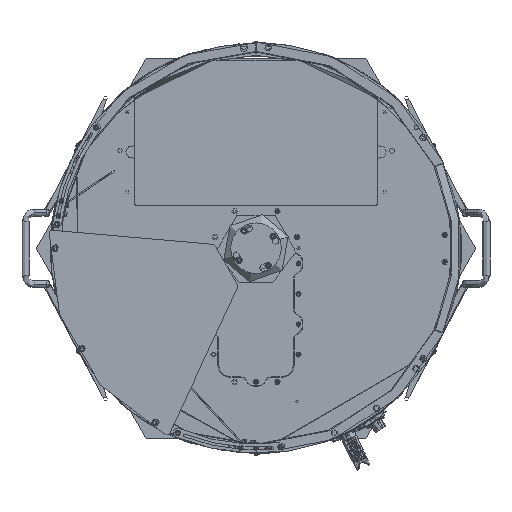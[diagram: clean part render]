
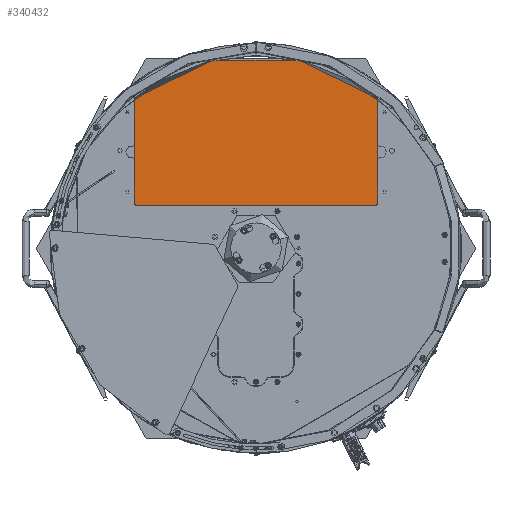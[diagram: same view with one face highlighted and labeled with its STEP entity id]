
A CAD part, top view. The second image highlights one B-rep face of the part: STEP entity #340432.
In plain terms, the highlighted planar face has unit normal (0, 0, 1).
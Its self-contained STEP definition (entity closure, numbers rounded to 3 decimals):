
#5748 = CARTESIAN_POINT ( 'NONE',  ( -202., -72.5, 8. ) ) ;
#8291 = AXIS2_PLACEMENT_3D ( 'NONE', #85639, #416237, #358437 ) ;
#11545 = ORIENTED_EDGE ( 'NONE', *, *, #57411, .T. ) ;
#31660 = AXIS2_PLACEMENT_3D ( 'NONE', #274567, #106055, #276738 ) ;
#33598 = ORIENTED_EDGE ( 'NONE', *, *, #176933, .T. ) ;
#43052 = CARTESIAN_POINT ( 'NONE',  ( 0., -72.5, 8. ) ) ;
#45808 = PLANE ( 'NONE',  #8291 ) ;
#47007 = ORIENTED_EDGE ( 'NONE', *, *, #284260, .T. ) ;
#54558 = FACE_OUTER_BOUND ( 'NONE', #314992, .T. ) ;
#57411 = EDGE_CURVE ( 'NONE', #329378, #265883, #159231, .T. ) ;
#58871 = DIRECTION ( 'NONE',  ( -1., 0., 0. ) ) ;
#62432 = LINE ( 'NONE', #337326, #391621 ) ;
#64414 = CARTESIAN_POINT ( 'NONE',  ( 202., -72.5, 8. ) ) ;
#66748 = VECTOR ( 'NONE', #176138, 1000. ) ;
#67462 = ORIENTED_EDGE ( 'NONE', *, *, #135069, .T. ) ;
#74469 = VERTEX_POINT ( 'NONE', #327002 ) ;
#85639 = CARTESIAN_POINT ( 'NONE',  ( 0., 0., 8. ) ) ;
#90642 = DIRECTION ( 'NONE',  ( -1., 0., 0. ) ) ;
#97730 = AXIS2_PLACEMENT_3D ( 'NONE', #287328, #191851, #225158 ) ;
#104504 = DIRECTION ( 'NONE',  ( -1., 0., 0. ) ) ;
#106055 = DIRECTION ( 'NONE',  ( 0., 0., 1. ) ) ;
#115978 = LINE ( 'NONE', #215756, #280646 ) ;
#118985 = CIRCLE ( 'NONE', #97730, 2.5 ) ;
#123929 = CARTESIAN_POINT ( 'NONE',  ( -202., -250.759, 8. ) ) ;
#135069 = EDGE_CURVE ( 'NONE', #376407, #290696, #118985, .T. ) ;
#137658 = DIRECTION ( 'NONE',  ( 0., 1., 0. ) ) ;
#149101 = CARTESIAN_POINT ( 'NONE',  ( 204.5, -75., 8. ) ) ;
#159231 = CIRCLE ( 'NONE', #31660, 2.5 ) ;
#176138 = DIRECTION ( 'NONE',  ( -1., 0., 0. ) ) ;
#176933 = EDGE_CURVE ( 'NONE', #265883, #376407, #384614, .T. ) ;
#180389 = ORIENTED_EDGE ( 'NONE', *, *, #303468, .T. ) ;
#183617 = ORIENTED_EDGE ( 'NONE', *, *, #365225, .T. ) ;
#184656 = DIRECTION ( 'NONE',  ( 0., -1., 0. ) ) ;
#191221 = VERTEX_POINT ( 'NONE', #390889 ) ;
#191851 = DIRECTION ( 'NONE',  ( 0., 0., 1. ) ) ;
#191947 = DIRECTION ( 'NONE',  ( 0., 0., 1. ) ) ;
#207765 = CIRCLE ( 'NONE', #285706, 2.5 ) ;
#213244 = CARTESIAN_POINT ( 'NONE',  ( -203.568, -252.706, 8. ) ) ;
#215756 = CARTESIAN_POINT ( 'NONE',  ( -204.5, 0., 8. ) ) ;
#215821 = VERTEX_POINT ( 'NONE', #213244 ) ;
#215872 = CARTESIAN_POINT ( 'NONE',  ( -204.5, -250.759, 8. ) ) ;
#225158 = DIRECTION ( 'NONE',  ( -1., 0., 0. ) ) ;
#231484 = EDGE_CURVE ( 'NONE', #215821, #191221, #382116, .T. ) ;
#234970 = VERTEX_POINT ( 'NONE', #215872 ) ;
#254478 = AXIS2_PLACEMENT_3D ( 'NONE', #322873, #191947, #58871 ) ;
#259192 = DIRECTION ( 'NONE',  ( 0., 0., 1. ) ) ;
#265883 = VERTEX_POINT ( 'NONE', #64414 ) ;
#268624 = CARTESIAN_POINT ( 'NONE',  ( -204.5, -75., 8. ) ) ;
#274567 = CARTESIAN_POINT ( 'NONE',  ( 202., -75., 8. ) ) ;
#276738 = DIRECTION ( 'NONE',  ( -1., 0., 0. ) ) ;
#280646 = VECTOR ( 'NONE', #184656, 1000. ) ;
#284260 = EDGE_CURVE ( 'NONE', #234970, #215821, #207765, .T. ) ;
#285706 = AXIS2_PLACEMENT_3D ( 'NONE', #123929, #259192, #90642 ) ;
#287328 = CARTESIAN_POINT ( 'NONE',  ( -202., -75., 8. ) ) ;
#290696 = VERTEX_POINT ( 'NONE', #268624 ) ;
#302285 = ORIENTED_EDGE ( 'NONE', *, *, #375992, .T. ) ;
#303468 = EDGE_CURVE ( 'NONE', #191221, #74469, #393142, .T. ) ;
#304087 = DIRECTION ( 'NONE',  ( 0., 0., 1. ) ) ;
#314992 = EDGE_LOOP ( 'NONE', ( #33598, #67462, #302285, #47007, #370449, #180389, #183617, #11545 ) ) ;
#322873 = CARTESIAN_POINT ( 'NONE',  ( 0., 0., 8. ) ) ;
#327002 = CARTESIAN_POINT ( 'NONE',  ( 204.5, -250.759, 8. ) ) ;
#329378 = VERTEX_POINT ( 'NONE', #149101 ) ;
#337326 = CARTESIAN_POINT ( 'NONE',  ( 204.5, 0., 8. ) ) ;
#340432 = ADVANCED_FACE ( 'NONE', ( #54558 ), #45808, .T. ) ;
#358437 = DIRECTION ( 'NONE',  ( 1., 0., 0. ) ) ;
#365225 = EDGE_CURVE ( 'NONE', #74469, #329378, #62432, .T. ) ;
#370449 = ORIENTED_EDGE ( 'NONE', *, *, #231484, .T. ) ;
#375992 = EDGE_CURVE ( 'NONE', #290696, #234970, #115978, .T. ) ;
#376407 = VERTEX_POINT ( 'NONE', #5748 ) ;
#382116 = CIRCLE ( 'NONE', #254478, 324.5 ) ;
#384614 = LINE ( 'NONE', #43052, #66748 ) ;
#390889 = CARTESIAN_POINT ( 'NONE',  ( 203.568, -252.706, 8. ) ) ;
#391621 = VECTOR ( 'NONE', #137658, 1000. ) ;
#393142 = CIRCLE ( 'NONE', #422277, 2.5 ) ;
#414933 = CARTESIAN_POINT ( 'NONE',  ( 202., -250.759, 8. ) ) ;
#416237 = DIRECTION ( 'NONE',  ( 0., 0., 1. ) ) ;
#422277 = AXIS2_PLACEMENT_3D ( 'NONE', #414933, #304087, #104504 ) ;
